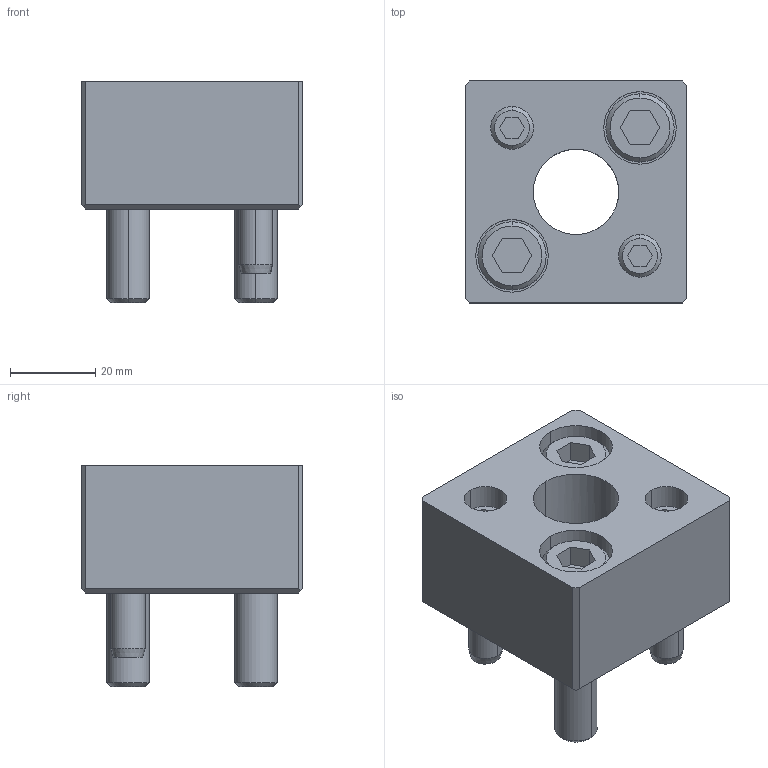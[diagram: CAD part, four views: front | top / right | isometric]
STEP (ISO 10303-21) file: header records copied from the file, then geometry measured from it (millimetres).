
FILE_DESCRIPTION(/* description */ (''),/* implementation_level */ '2;1');
FILE_NAME(/* name */ '3d_mpdr20_04593_r00.stp',/* time_stamp */ '2011-01-10T14:13:29+09:00',/* author */ ('MISUMI'),/* organization */ (''),/* preprocessor_version */ 'ST-DEVELOPER v11',/* originating_system */ 'UGS - NX 5.0',/* authorisation */ '');
FILE_SCHEMA (('CONFIG_CONTROL_DESIGN'));
Length unit declared in the file: millimetre
Products named in the file (1): 3d_mpdr20_04593_r00
Bounding box: 52 x 52 x 52 mm (x, y, z)
Volume: 71800.3 mm3; surface area: 23898.2 mm2
Topology: 7 solids, 7 shells, 139 faces, 310 edges, 199 vertices
Faces by surface type: plane 68, cylinder 45, cone 26
Entity records: 3982 total; most frequent: DIRECTION 700, CARTESIAN_POINT 694, ORIENTED_EDGE 620, EDGE_CURVE 310, AXIS2_PLACEMENT_3D 257, VERTEX_POINT 199, LINE 186, VECTOR 186
